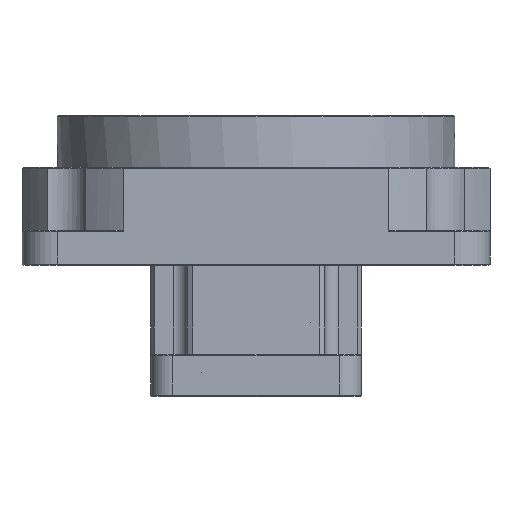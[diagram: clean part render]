
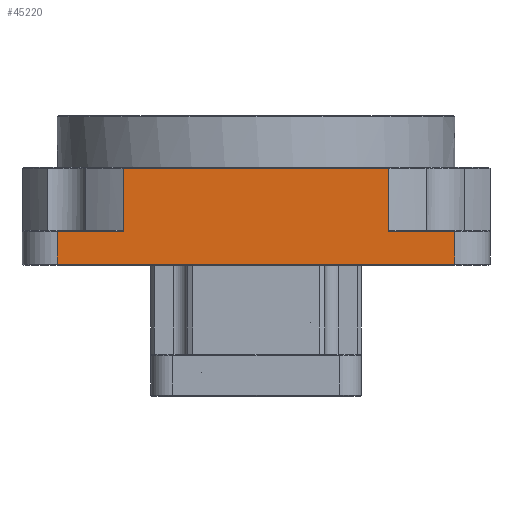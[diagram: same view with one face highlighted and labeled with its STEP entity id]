
A CAD part, left-side view. The second image highlights one B-rep face of the part: STEP entity #45220.
In plain terms, the highlighted planar face has unit normal (-1, 0, 0).
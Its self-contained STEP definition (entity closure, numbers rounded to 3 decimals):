
#45080=CARTESIAN_POINT('',(-100.,-56.789,41.5));
#45081=VERTEX_POINT('',#45080);
#45098=CARTESIAN_POINT('',(-100.,56.789,41.5));
#45099=VERTEX_POINT('',#45098);
#45113=CARTESIAN_POINT('',(-100.0,56.789,41.5));
#45114=DIRECTION('',(0.0,-1.0,0.0));
#45115=VECTOR('',#45114,113.578);
#45116=LINE('',#45113,#45115);
#45117=EDGE_CURVE('',#45099,#45081,#45116,.T.);
#45158=CARTESIAN_POINT('',(-100.,100.,0.0));
#45159=DIRECTION('',(-1.0,0.0,0.0));
#45160=DIRECTION('',(0.0,-1.0,0.0));
#45161=AXIS2_PLACEMENT_3D('',#45158,#45159,#45160);
#45162=PLANE('',#45161);
#45163=ORIENTED_EDGE('',*,*,#45117,.F.);
#45164=CARTESIAN_POINT('',(-100.0,56.789,14.5));
#45165=VERTEX_POINT('',#45164);
#45166=CARTESIAN_POINT('',(-100.,56.789,14.5));
#45167=DIRECTION('',(0.0,0.0,1.0));
#45168=VECTOR('',#45167,27.0);
#45169=LINE('',#45166,#45168);
#45170=EDGE_CURVE('',#45165,#45099,#45169,.T.);
#45171=ORIENTED_EDGE('',*,*,#45170,.F.);
#45172=CARTESIAN_POINT('',(-100.,85.0,14.5));
#45173=VERTEX_POINT('',#45172);
#45174=CARTESIAN_POINT('',(-100.0,85.0,14.5));
#45175=DIRECTION('',(0.0,-1.0,0.0));
#45176=VECTOR('',#45175,28.211);
#45177=LINE('',#45174,#45176);
#45178=EDGE_CURVE('',#45173,#45165,#45177,.T.);
#45179=ORIENTED_EDGE('',*,*,#45178,.F.);
#45180=CARTESIAN_POINT('',(-100.,85.0,0.5));
#45181=VERTEX_POINT('',#45180);
#45182=CARTESIAN_POINT('',(-100.,85.0,0.5));
#45183=DIRECTION('',(0.0,0.0,1.0));
#45184=VECTOR('',#45183,14.0);
#45185=LINE('',#45182,#45184);
#45186=EDGE_CURVE('',#45181,#45173,#45185,.T.);
#45187=ORIENTED_EDGE('',*,*,#45186,.F.);
#45188=CARTESIAN_POINT('',(-100.,-85.,0.5));
#45189=VERTEX_POINT('',#45188);
#45190=CARTESIAN_POINT('',(-100.,-85.,0.5));
#45191=DIRECTION('',(0.0,1.0,0.0));
#45192=VECTOR('',#45191,170.);
#45193=LINE('',#45190,#45192);
#45194=EDGE_CURVE('',#45189,#45181,#45193,.T.);
#45195=ORIENTED_EDGE('',*,*,#45194,.F.);
#45196=CARTESIAN_POINT('',(-100.,-85.,14.5));
#45197=VERTEX_POINT('',#45196);
#45198=CARTESIAN_POINT('',(-100.,-85.,14.5));
#45199=DIRECTION('',(0.0,0.0,-1.0));
#45200=VECTOR('',#45199,14.0);
#45201=LINE('',#45198,#45200);
#45202=EDGE_CURVE('',#45197,#45189,#45201,.T.);
#45203=ORIENTED_EDGE('',*,*,#45202,.F.);
#45204=CARTESIAN_POINT('',(-100.,-56.789,14.5));
#45205=VERTEX_POINT('',#45204);
#45206=CARTESIAN_POINT('',(-100.,-56.789,14.5));
#45207=DIRECTION('',(0.0,-1.0,0.0));
#45208=VECTOR('',#45207,28.211);
#45209=LINE('',#45206,#45208);
#45210=EDGE_CURVE('',#45205,#45197,#45209,.T.);
#45211=ORIENTED_EDGE('',*,*,#45210,.F.);
#45212=CARTESIAN_POINT('',(-100.,-56.789,41.5));
#45213=DIRECTION('',(0.0,0.0,-1.0));
#45214=VECTOR('',#45213,27.0);
#45215=LINE('',#45212,#45214);
#45216=EDGE_CURVE('',#45081,#45205,#45215,.T.);
#45217=ORIENTED_EDGE('',*,*,#45216,.F.);
#45218=EDGE_LOOP('',(#45163,#45171,#45179,#45187,#45195,#45203,#45211,#45217));
#45219=FACE_OUTER_BOUND('',#45218,.T.);
#45220=ADVANCED_FACE('',(#45219),#45162,.T.);
